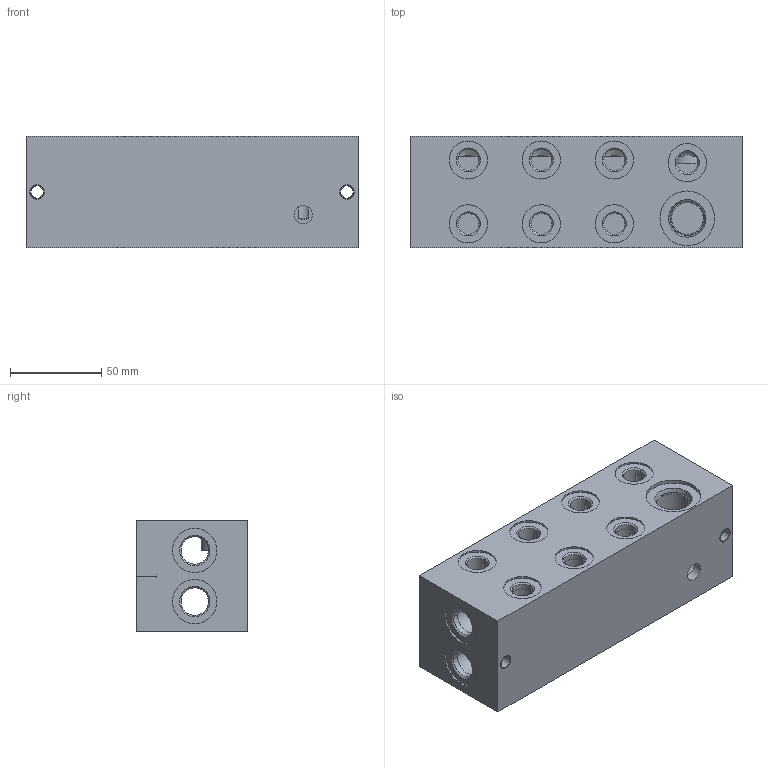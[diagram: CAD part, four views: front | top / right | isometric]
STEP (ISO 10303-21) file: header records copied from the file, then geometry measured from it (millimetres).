
FILE_DESCRIPTION((''),'2;1');
FILE_NAME('760_7030','2015-11-27T',('Ahcz.brigadnik05'),(''),'PRO/ENGINEER BY PARAMETRIC TECHNOLOGY CORPORATION, 2015110','PRO/ENGINEER BY PARAMETRIC TECHNOLOGY CORPORATION, 2015110','');
FILE_SCHEMA(('AUTOMOTIVE_DESIGN { 1 0 10303 214 1 1 1 1 }'));
Length unit declared in the file: millimetre
Products named in the file (1): 760_7030
Bounding box: 182 x 61 x 61 mm (x, y, z)
Volume: 255494.1 mm3; surface area: 106164.5 mm2
Topology: 1 solids, 32 shells, 297 faces, 1453 edges, 1330 vertices
Faces by surface type: cylinder 189, plane 62, cone 46
Entity records: 16120 total; most frequent: CARTESIAN_POINT 3265, DIRECTION 2448, ORIENTED_EDGE 1530, VECTOR 920, LINE 920, EDGE_CURVE 827, AXIS2_PLACEMENT_3D 764, TRIMMED_CURVE 621
